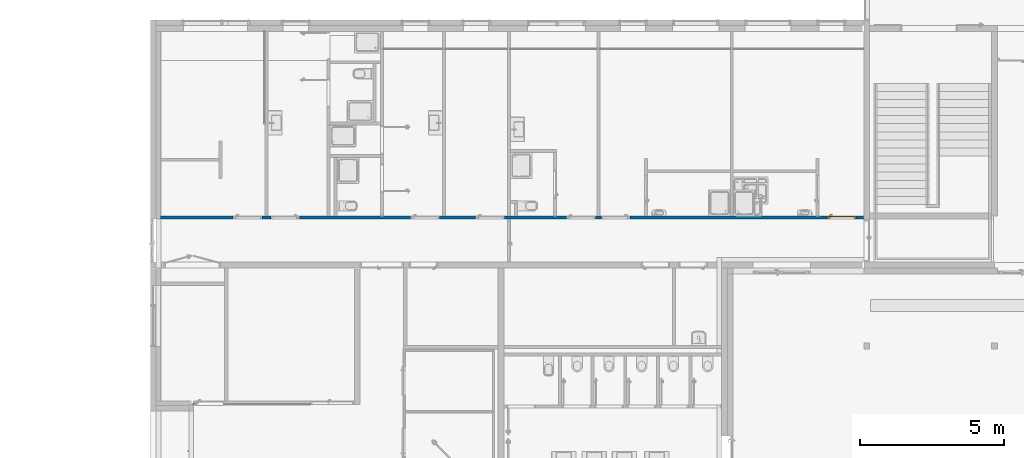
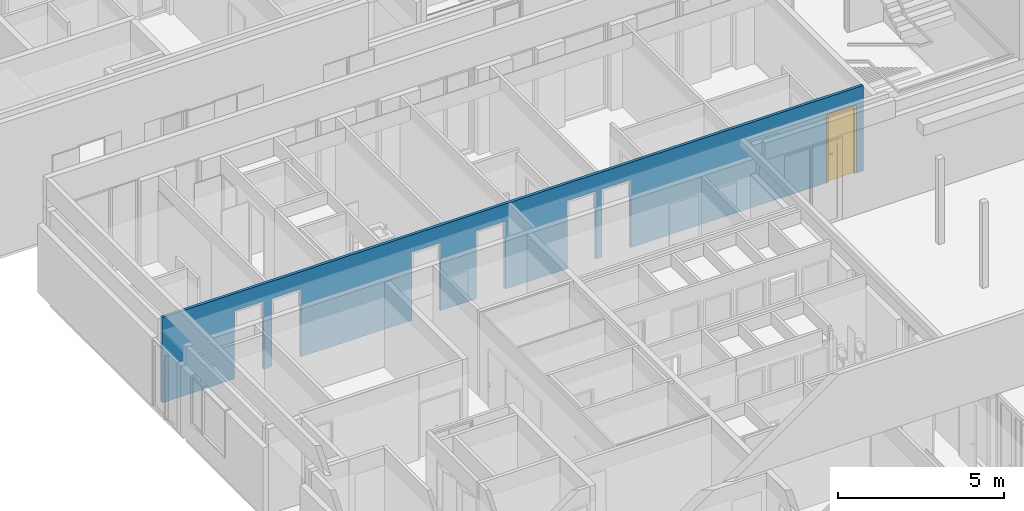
# One storey, part 104 of 240: 1 door, 1 wall, 7 openings.
"""IFC2X3 building model written with IfcOpenShell, lengths in centimetres."""

import ifcopenshell
import ifcopenshell.guid

model = None  # the IFC model being written
_history = None  # IfcOwnerHistory: only IFC2X3 demands one
_inside = {}  # id of a spatial element -> (the spatial element, [elements in it])
_under = {}  # id of a project, library or spatial element -> (it, [spatial elements below it])
_declared = {}  # id of a project -> (the project, [libraries it declares])
_typed = {}  # id of a type object -> (the type object, [elements of that type])
_made_of = {}  # id of a material, layer set ... -> (it, [elements and type objects made of it])


def new_model(schema):
    """Start an empty IFC model of exactly this schema.

    Asked for "IFC4X3", IfcOpenShell would pick the latest addendum, in which some entities
    have other attributes; the version numbers below select the first issue.
    IFC2X3 requires an IfcOwnerHistory on every rooted entity: one is made here for all.
    """
    global model, _history
    if schema == "IFC4X3":
        model = ifcopenshell.file(schema_version=(4, 3, 0, 0))
    else:
        model = ifcopenshell.file(schema=schema)
    _inside.clear()
    _under.clear()
    _declared.clear()
    _typed.clear()
    _made_of.clear()
    _history = None
    if model.schema == "IFC2X3":
        org = make("IfcOrganization", Name="unknown")
        user = make(
            "IfcPersonAndOrganization",
            ThePerson=make("IfcPerson", FamilyName="unknown"),
            TheOrganization=org,
        )
        app = make(
            "IfcApplication",
            ApplicationDeveloper=org,
            Version="unknown",
            ApplicationFullName="unknown",
            ApplicationIdentifier="unknown",
        )
        _history = make(
            "IfcOwnerHistory",
            OwningUser=user,
            OwningApplication=app,
            ChangeAction="ADDED",
            CreationDate=0,
        )
    return model


def make(cls, **values):
    """One entity of the class cls with the attributes given. An attribute that is None is left unset."""
    return model.create_entity(
        cls, **{name: value for name, value in values.items() if value is not None}
    )


def entity(cls, *values):
    """Any entity or typed value of the class cls, its attributes in the order of the schema. None: left unset."""
    e = model.create_entity(cls)
    for i, value in enumerate(values):
        if value is not None:
            e[i] = value
    return e


def rooted(cls, **values):
    """An entity with a GlobalId (a new one), such as an element, a storey or a relation."""
    return make(cls, GlobalId=ifcopenshell.guid.new(), OwnerHistory=_history, **values)


def si_unit(unit_type, name, prefix=None):
    """IfcSIUnit, for example si_unit("LENGTHUNIT", "METRE", prefix="MILLI")."""
    return make("IfcSIUnit", UnitType=unit_type, Prefix=prefix, Name=name)


def converted_unit(unit_type, name, factor, base, dimensions=None, offset=None):
    """IfcConversionBasedUnit, such as the inch: factor (a typed value) times the base unit."""
    return make(
        "IfcConversionBasedUnit"
        if offset is None
        else "IfcConversionBasedUnitWithOffset",
        ConversionOffset=offset,
        Dimensions=None
        if dimensions is None
        else entity("IfcDimensionalExponents", *dimensions),
        UnitType=unit_type,
        Name=name,
        ConversionFactor=make(
            "IfcMeasureWithUnit", ValueComponent=factor, UnitComponent=base
        ),
    )


def derived_unit(unit_type, elements):
    """IfcDerivedUnit: a product of units, each with its exponent."""
    return make(
        "IfcDerivedUnit",
        Elements=[
            make("IfcDerivedUnitElement", Unit=unit, Exponent=power)
            for unit, power in elements
        ],
        UnitType=unit_type,
    )


def assignment(units):
    """IfcUnitAssignment: the units of a project."""
    return None if units is None else make("IfcUnitAssignment", Units=units)


def point(xyz):
    """IfcCartesianPoint."""
    return None if xyz is None else make("IfcCartesianPoint", Coordinates=xyz)


def direction(xyz):
    """IfcDirection."""
    return None if xyz is None else make("IfcDirection", DirectionRatios=xyz)


def frame(location, z_axis=None, x_axis=None):
    """IfcAxis2Placement3D, a coordinate frame: its origin and axes. An axis left out is left unset."""
    return make(
        "IfcAxis2Placement3D",
        Location=point(location),
        Axis=direction(z_axis),
        RefDirection=direction(x_axis),
    )


def frame_2d(location, x_axis=None):
    """IfcAxis2Placement2D, a coordinate frame in the plane: its origin and x axis."""
    return make(
        "IfcAxis2Placement2D", Location=point(location), RefDirection=direction(x_axis)
    )


def origin():
    """The frame at (0, 0, 0) with its axes left unset."""
    return frame((0.0, 0.0, 0.0))


def place(relative_to, where):
    """IfcLocalPlacement: puts the frame where relative to a parent placement (None: the world)."""
    return make(
        "IfcLocalPlacement", PlacementRelTo=relative_to, RelativePlacement=where
    )


def context(
    kind, dimensions, precision=None, world=None, true_north=None, identifier=None
):
    """IfcGeometricRepresentationContext, for example the 3D "Model" context."""
    return make(
        "IfcGeometricRepresentationContext",
        ContextIdentifier=identifier,
        ContextType=kind,
        CoordinateSpaceDimension=dimensions,
        Precision=precision,
        WorldCoordinateSystem=world,
        TrueNorth=true_north,
    )


def subcontext(parent, identifier, kind, view, scale=None):
    """IfcGeometricRepresentationSubContext, for example "Body" below "Model"."""
    return make(
        "IfcGeometricRepresentationSubContext",
        ContextIdentifier=identifier,
        ContextType=kind,
        ParentContext=parent,
        TargetScale=scale,
        TargetView=view,
    )


def project(units=None, contexts=None):
    """IfcProject with its units and contexts."""
    return rooted(
        "IfcProject",
        Name="project",
        RepresentationContexts=contexts,
        UnitsInContext=assignment(units),
    )


def spatial(cls, under=None, at=None, **own):
    """A site, building, storey or space (cls), placed at a placement, below another one or the project."""
    s = rooted(cls, ObjectPlacement=at, **own)
    if under is not None:
        _under.setdefault(under.id(), (under, []))[1].append(s)
    return s


def profile(cls, at=None, kind="AREA", **sizes):
    """A parametric profile (cls). Its sizes go by their IFC names, for example OverallWidth=200.0."""
    return make(cls, ProfileType=kind, Position=at, **sizes)


def rectangle(**sizes):
    """IfcRectangleProfileDef."""
    return profile("IfcRectangleProfileDef", **sizes)


def extrude(swept, where, along, depth):
    """IfcExtrudedAreaSolid: the profile swept, set in the frame where, extruded along a direction by depth."""
    return make(
        "IfcExtrudedAreaSolid",
        SweptArea=swept,
        Position=where,
        ExtrudedDirection=direction(along),
        Depth=depth,
    )


def faces_of(points, faces, orient=None, outer=None):
    """IfcFace entities. A face is a list of loops; a loop is a list of indices into points, from 0.

    orient and outer hold one flag for each loop. By default every Orientation is true, the
    first loop of a face is its IfcFaceOuterBound and the others are IfcFaceBound.
    """
    made = []
    for i, loops in enumerate(faces):
        bounds = []
        for j, loop in enumerate(loops):
            is_outer = j == 0 if outer is None else outer[i][j]
            bounds.append(
                make(
                    "IfcFaceOuterBound" if is_outer else "IfcFaceBound",
                    Bound=make("IfcPolyLoop", Polygon=[points[k] for k in loop]),
                    Orientation=True if orient is None else orient[i][j],
                )
            )
        made.append(make("IfcFace", Bounds=bounds))
    return made


def faceted_brep(points, faces, orient=None, outer=None, voids=None):
    """IfcFacetedBrep: a solid bounded by flat faces; with voids (closed shells), ...WithVoids."""
    shared = [point(p) for p in points]
    hull = make("IfcClosedShell", CfsFaces=faces_of(shared, faces, orient, outer))
    if voids is None:
        return make("IfcFacetedBrep", Outer=hull)
    return make(
        "IfcFacetedBrepWithVoids",
        Outer=hull,
        Voids=[
            make(cls, CfsFaces=faces_of(shared, fs, o, b)) for cls, fs, o, b in voids
        ],
    )


def shape(context_of_items, identifier, shape_type, items):
    """IfcShapeRepresentation: the items that make up one representation, for example the "Body"."""
    return make(
        "IfcShapeRepresentation",
        ContextOfItems=context_of_items,
        RepresentationIdentifier=identifier,
        RepresentationType=shape_type,
        Items=items,
    )


def source(mapping_origin, context_of_items, identifier, shape_type, items):
    """IfcRepresentationMap: a shape defined once, which mapped items show again and again."""
    return make(
        "IfcRepresentationMap",
        MappingOrigin=mapping_origin,
        MappedRepresentation=shape(context_of_items, identifier, shape_type, items),
    )


def transform(
    local_origin,
    x_axis=None,
    y_axis=None,
    z_axis=None,
    scale=None,
    scale2=None,
    scale3=None,
    uniform=True,
):
    """IfcCartesianTransformationOperator3D, or its non-uniform kind. x_axis, y_axis, z_axis: its Axis1, 2, 3."""
    if uniform:
        return make(
            "IfcCartesianTransformationOperator3D",
            Axis1=direction(x_axis),
            Axis2=direction(y_axis),
            LocalOrigin=point(local_origin),
            Scale=scale,
            Axis3=direction(z_axis),
        )
    return make(
        "IfcCartesianTransformationOperator3DnonUniform",
        Axis1=direction(x_axis),
        Axis2=direction(y_axis),
        LocalOrigin=point(local_origin),
        Scale=scale,
        Axis3=direction(z_axis),
        Scale2=scale2,
        Scale3=scale3,
    )


def mapped(mapping_source, mapping_target):
    """IfcMappedItem: shows the shape of a source again, moved by a transform."""
    return make(
        "IfcMappedItem", MappingSource=mapping_source, MappingTarget=mapping_target
    )


def material(Name=None, Category=None):
    """IfcMaterial."""
    return make("IfcMaterial", Name=Name, Category=Category)


def material_list(materials):
    """IfcMaterialList."""
    return make("IfcMaterialList", Materials=materials)


def layer(
    of_material, thickness, ventilated=None, Name=None, Category=None, Priority=None
):
    """IfcMaterialLayer: one layer of a wall or slab, of a material (None: an air gap)."""
    return make(
        "IfcMaterialLayer",
        Material=of_material,
        LayerThickness=thickness,
        IsVentilated=ventilated,
        Name=Name,
        Category=Category,
        Priority=Priority,
    )


def layer_set(layers, Name=None):
    """IfcMaterialLayerSet."""
    return make("IfcMaterialLayerSet", MaterialLayers=layers, LayerSetName=Name)


def layer_usage(for_layer_set, set_direction, sense, offset, extent=None):
    """IfcMaterialLayerSetUsage: how a layer set lies in its element."""
    return make(
        "IfcMaterialLayerSetUsage",
        ForLayerSet=for_layer_set,
        LayerSetDirection=set_direction,
        DirectionSense=sense,
        OffsetFromReferenceLine=offset,
        ReferenceExtent=extent,
    )


def made_of(thing, what):
    """Note that an element or type object is made of a material, layer set ...; save() writes the relation."""
    if what is not None:
        _made_of.setdefault(what.id(), (what, []))[1].append(thing)
    return thing


def type_object(cls, material=None, **own):
    """A type object (cls), such as IfcWallType, which elements share."""
    return made_of(rooted(cls, **own), material)


def type_shapes(of_type, sources):
    """Give a type object the sources (RepresentationMaps) that its elements show as mapped items."""
    of_type.RepresentationMaps = sources


def element(
    cls,
    number,
    at=None,
    inside=None,
    cuts=None,
    type_object=None,
    material=None,
    context=None,
    identifier="Body",
    shape_type=None,
    held_by="IfcProductDefinitionShape",
    body=None,
    shapes=None,
    **own,
):
    """One element of the class cls, such as IfcWall. Its Tag is "e" and its number.

    at: its placement. inside: the storey or other place that contains it. cuts: it is an
    opening in that element (IfcRelVoidsElement). A single representation is given by context,
    identifier, shape_type and body (its items); several are given by shapes. held_by: the class
    of the entity that holds the representations. save() writes the other relations.
    """
    e = rooted(cls, Tag="e%d" % number, ObjectPlacement=at, **own)
    if body is not None:
        shapes = [shape(context, identifier, shape_type, body)]
    if shapes is not None:
        e.Representation = make(held_by, Representations=shapes)
    if inside is not None:
        _inside.setdefault(inside.id(), (inside, []))[1].append(e)
    if cuts is not None:
        rooted(
            "IfcRelVoidsElement", RelatingBuildingElement=cuts, RelatedOpeningElement=e
        )
    if type_object is not None:
        _typed.setdefault(type_object.id(), (type_object, []))[1].append(e)
    return made_of(e, material)


def fill(opening, filler):
    """IfcRelFillsElement: the door or window that sits in an opening."""
    return rooted(
        "IfcRelFillsElement",
        RelatingOpeningElement=opening,
        RelatedBuildingElement=filler,
    )


def aggregate(whole, parts):
    """IfcRelAggregates: a whole, such as a stair, and the parts it consists of."""
    return rooted("IfcRelAggregates", RelatingObject=whole, RelatedObjects=parts)


def save(model, path):
    """Write the relations noted so far, then the file.

    IfcRelAggregates (storeys below a building ...), IfcRelContainedInSpatialStructure (elements
    in a storey), IfcRelDefinesByType, IfcRelAssociatesMaterial and IfcRelDeclares: one each for
    every whole, place, type object, material and project.
    """
    for whole, parts in _under.values():
        aggregate(whole, parts)
    for where, things in _inside.values():
        rooted(
            "IfcRelContainedInSpatialStructure",
            RelatedElements=things,
            RelatingStructure=where,
        )
    for kind, things in _typed.values():
        rooted("IfcRelDefinesByType", RelatedObjects=things, RelatingType=kind)
    for what, things in _made_of.values():
        rooted("IfcRelAssociatesMaterial", RelatedObjects=things, RelatingMaterial=what)
    for by, libraries in _declared.values():
        rooted("IfcRelDeclares", RelatingContext=by, RelatedDefinitions=libraries)
    model.write(path)


model = new_model("IFC2X3")

# Units and contexts
model_context = context("Model", 3, precision=0.001, world=origin(), true_north=direction((6.12303176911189e-17, 1.0)))
body_context = subcontext(model_context, "Body", "Model", "MODEL_VIEW")
ifc_project = project(units=[si_unit("LENGTHUNIT", "METRE", prefix="CENTI"), si_unit("AREAUNIT", "SQUARE_METRE"), si_unit("VOLUMEUNIT", "CUBIC_METRE"), converted_unit("PLANEANGLEUNIT", "DEGREE", entity("IfcRatioMeasure", 0.0174532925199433), si_unit("PLANEANGLEUNIT", "RADIAN"), dimensions=[0, 0, 0, 0, 0, 0, 0]), si_unit("MASSUNIT", "GRAM", prefix="KILO"), derived_unit("MASSDENSITYUNIT", [(si_unit("MASSUNIT", "GRAM", prefix="KILO"), 1), (si_unit("LENGTHUNIT", "METRE"), -3)]), si_unit("TIMEUNIT", "SECOND"), si_unit("FREQUENCYUNIT", "HERTZ"), si_unit("THERMODYNAMICTEMPERATUREUNIT", "DEGREE_CELSIUS"), derived_unit("THERMALTRANSMITTANCEUNIT", [(si_unit("MASSUNIT", "GRAM", prefix="KILO"), 1), (si_unit("THERMODYNAMICTEMPERATUREUNIT", "KELVIN"), -1), (si_unit("TIMEUNIT", "SECOND"), -3)]), derived_unit("VOLUMETRICFLOWRATEUNIT", [(si_unit("LENGTHUNIT", "METRE"), 3), (si_unit("TIMEUNIT", "SECOND"), -1)]), si_unit("ELECTRICCURRENTUNIT", "AMPERE"), si_unit("ELECTRICVOLTAGEUNIT", "VOLT"), si_unit("POWERUNIT", "WATT"), si_unit("FORCEUNIT", "NEWTON", prefix="KILO"), si_unit("ILLUMINANCEUNIT", "LUX"), si_unit("LUMINOUSFLUXUNIT", "LUMEN"), si_unit("LUMINOUSINTENSITYUNIT", "CANDELA"), derived_unit("USERDEFINED", [(si_unit("MASSUNIT", "GRAM", prefix="KILO"), -1), (si_unit("LENGTHUNIT", "METRE"), -2), (si_unit("TIMEUNIT", "SECOND"), 3), (si_unit("LUMINOUSFLUXUNIT", "LUMEN"), 1)]), derived_unit("LINEARVELOCITYUNIT", [(si_unit("LENGTHUNIT", "METRE"), 1), (si_unit("TIMEUNIT", "SECOND"), -1)]), si_unit("PRESSUREUNIT", "PASCAL"), derived_unit("USERDEFINED", [(si_unit("LENGTHUNIT", "METRE"), -2), (si_unit("MASSUNIT", "GRAM", prefix="KILO"), 1), (si_unit("TIMEUNIT", "SECOND"), -2)])], contexts=[model_context])

# Site, building, storey
site_placement = place(None, frame((-2781.94577612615, 7442.24238424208, 0.0)))
site = spatial("IfcSite", under=ifc_project, at=site_placement, Name="Default", CompositionType="ELEMENT")
building_placement = place(site_placement, origin())
building = spatial("IfcBuilding", under=site, at=building_placement, CompositionType="ELEMENT")
storey_placement = place(building_placement, origin())
storey = spatial("IfcBuildingStorey", under=building, at=storey_placement, Name="N00 - COO", CompositionType="ELEMENT", Elevation=0.0)

# Wall, openings, door
ifc_material_1 = material(Name="01 - Enduit/Plâtre")
ifc_layer_1 = layer(ifc_material_1, 1.3)
ifc_material_2 = material(Name="00 - Isolant")
ifc_layer_2 = layer(ifc_material_2, 7.4)
ifc_layer_3 = layer(ifc_material_1, 1.3)
ifc_layer_set = layer_set([ifc_layer_1, ifc_layer_2, ifc_layer_3], Name="Mur de base:06 - cloisons - Ba13 10cm")
ifc_layer_usage = layer_usage(ifc_layer_set, "AXIS2", "NEGATIVE", 5.0)
wall_type = type_object("IfcWallType", Name="Mur de base:06 - cloisons - Ba13 10cm", PredefinedType="STANDARD", material=ifc_layer_set)
wall_placement = place(building_placement, frame((-10866.3130476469, -1755.0, 0.0)))
wall = element("IfcWallStandardCase", 1, at=wall_placement, inside=storey, type_object=wall_type, material=ifc_layer_usage, Name="Mur de base:06 - cloisons - Ba13 10cm", ObjectType="Mur de base:06 - cloisons - Ba13 10cm", context=body_context, shape_type="SweptSolid", body=[
    extrude(rectangle(XDim=2435.48317594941, YDim=9.99999999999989, at=frame_2d((1217.7415879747, 3.37507799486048e-14), x_axis=(-1.0, 0.0))), origin(), (0.0, 0.0, 1.0), 313.0),
])
opening_1_placement = place(wall_placement, frame((2309.31316997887, -5.0, 0.0)))
opening_1 = element("IfcOpeningElement", 2, at=opening_1_placement, cuts=wall, Name="Int. Simple:PP simple (0.93m x 2.50m):1", ObjectType="Opening", context=body_context, shape_type="SweptSolid", body=[
    extrude(rectangle(XDim=248.500000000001, YDim=99.9999999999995, at=frame_2d((124.250000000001, 49.9999999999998), x_axis=(1.0, 0.0))), frame((0.0, 0.0, 0.0), z_axis=(0.0, 1.0, 0.0), x_axis=(0.0, 0.0, 1.0)), (0.0, 0.0, 1.0), 10.0),
])
opening_2_placement = place(wall_placement, frame((1527.31316997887, -5.0, 0.0)))
element("IfcOpeningElement", 3, at=opening_2_placement, cuts=wall, Name="Int. Simple:PP simple (0.93m x 2.50m):1", ObjectType="Opening", context=body_context, shape_type="SweptSolid", body=[
    extrude(rectangle(XDim=248.500000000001, YDim=99.9999999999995, at=frame_2d((124.250000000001, 50.0), x_axis=(1.0, 0.0))), frame((0.0, 0.0, 0.0), z_axis=(0.0, 1.0, 0.0), x_axis=(0.0, 0.0, 1.0)), (0.0, 0.0, 1.0), 10.0),
])
opening_3_placement = place(wall_placement, frame((1406.81316997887, -5.0, 0.0)))
element("IfcOpeningElement", 4, at=opening_3_placement, cuts=wall, Name="Int. Simple:PP simple (0.93m x 2.50m):1", ObjectType="Opening", context=body_context, shape_type="SweptSolid", body=[
    extrude(rectangle(XDim=248.500000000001, YDim=99.9999999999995, at=frame_2d((124.250000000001, 49.9999999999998), x_axis=(1.0, 0.0))), frame((0.0, 0.0, 0.0), z_axis=(0.0, 1.0, 0.0), x_axis=(0.0, 0.0, 1.0)), (0.0, 0.0, 1.0), 10.0),
])
opening_4_placement = place(wall_placement, frame((1091.81316997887, -5.0, 0.0)))
element("IfcOpeningElement", 5, at=opening_4_placement, cuts=wall, Name="Int. Simple:PP simple (0.93m x 2.50m):1", ObjectType="Opening", context=body_context, shape_type="SweptSolid", body=[
    extrude(rectangle(XDim=248.500000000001, YDim=99.9999999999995, at=frame_2d((124.250000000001, 49.9999999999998), x_axis=(1.0, 0.0))), frame((0.0, 0.0, 0.0), z_axis=(0.0, 1.0, 0.0), x_axis=(0.0, 0.0, 1.0)), (0.0, 0.0, 1.0), 10.0),
])
opening_5_placement = place(wall_placement, frame((866.813169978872, -5.0, 0.0)))
element("IfcOpeningElement", 6, at=opening_5_placement, cuts=wall, Name="Int. Simple:PP simple (0.93m x 2.50m):1", ObjectType="Opening", context=body_context, shape_type="SweptSolid", body=[
    extrude(rectangle(XDim=248.500000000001, YDim=99.9999999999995, at=frame_2d((124.250000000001, 49.9999999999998), x_axis=(1.0, 0.0))), frame((0.0, 0.0, 0.0), z_axis=(0.0, 1.0, 0.0), x_axis=(0.0, 0.0, 1.0)), (0.0, 0.0, 1.0), 10.0),
])
opening_6_placement = place(wall_placement, frame((381.813169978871, -5.0, 0.0)))
element("IfcOpeningElement", 7, at=opening_6_placement, cuts=wall, Name="Int. Simple:PP simple (0.93m x 2.50m):1", ObjectType="Opening", context=body_context, shape_type="SweptSolid", body=[
    extrude(rectangle(XDim=248.500000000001, YDim=99.9999999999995, at=frame_2d((124.250000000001, 50.0), x_axis=(1.0, 0.0))), frame((0.0, 0.0, 0.0), z_axis=(0.0, 1.0, 0.0), x_axis=(0.0, 0.0, 1.0)), (0.0, 0.0, 1.0), 10.0),
])
opening_7_placement = place(wall_placement, frame((251.813169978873, -5.0, 0.0)))
element("IfcOpeningElement", 8, at=opening_7_placement, cuts=wall, Name="Int. Simple:PP simple (0.93m x 2.50m):1", ObjectType="Opening", context=body_context, shape_type="SweptSolid", body=[
    extrude(rectangle(XDim=248.500000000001, YDim=99.9999999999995, at=frame_2d((124.250000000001, 49.9999999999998), x_axis=(1.0, 0.0))), frame((0.0, 0.0, 0.0), z_axis=(0.0, 1.0, 0.0), x_axis=(0.0, 0.0, 1.0)), (0.0, 0.0, 1.0), 10.0),
])
ifc_material_3 = material(Name="Finition Peinture - Blanc satiné")
ifc_material_4 = material(Name="Bois - Panneau de porte")
ifc_material_5 = material(Name="Bois - Cadre de porte")
ifc_material_list_1 = material_list([ifc_material_3, ifc_material_4, ifc_material_5])
ifc_material_list_2 = material_list([ifc_material_3, ifc_material_4, ifc_material_5])
door_style = type_object("IfcDoorStyle", Name="PP simple (0.93m x 2.50m)", ConstructionType="NOTDEFINED", OperationType="SINGLE_SWING_RIGHT", ParameterTakesPrecedence=False, Sizeable=False, material=ifc_material_list_2)
shared_shape = source(origin(), body_context, "Body", "Brep", [
    faceted_brep([(99.5000000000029, -0.500000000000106, 87.0), (99.5000000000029, -0.500000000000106, 108.0), (98.535276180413, -0.500000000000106, 108.399601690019), (97.5000000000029, -0.500000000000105, 108.535898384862), (96.4647238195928, -0.500000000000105, 108.399601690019), (95.500000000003, -0.500000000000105, 108.0), (95.5000000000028, -0.500000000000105, 87.0), (96.4647238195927, -0.500000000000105, 86.6003983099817), (97.5000000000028, -0.500000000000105, 86.464101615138), (98.5352761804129, -0.500000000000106, 86.6003983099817), (99.5000000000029, 0.0, 108.0), (99.5000000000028, 0.0, 87.0), (98.5352761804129, 0.0, 86.6003983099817), (97.5000000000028, 0.0, 86.464101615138), (96.4647238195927, 0.0, 86.6003983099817), (95.5000000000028, 0.0, 87.0), (95.5000000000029, 0.0, 108.0), (96.4647238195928, 0.0, 108.399601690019), (97.5000000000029, 0.0, 108.535898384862), (98.535276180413, 0.0, 108.399601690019)], [[[0, 1, 2, 3, 4, 5, 6, 7, 8, 9]], [[10, 11, 12, 13, 14, 15, 16, 17, 18, 19]], [[9, 12, 11, 0]], [[8, 13, 12, 9]], [[7, 14, 13, 8]], [[7, 6, 15, 14]], [[15, 6, 5, 16]], [[4, 17, 16, 5]], [[3, 18, 17, 4]], [[2, 19, 18, 3]], [[2, 1, 10, 19]], [[11, 10, 1, 0]]]),
    faceted_brep([(99.5000000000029, 4.0, 87.0), (99.5000000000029, 4.0, 108.0), (98.535276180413, 4.0, 108.399601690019), (97.5000000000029, 4.0, 108.535898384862), (96.4647238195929, 4.0, 108.399601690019), (95.500000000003, 4.0, 108.0), (95.5000000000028, 4.0, 87.0), (96.4647238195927, 4.0, 86.6003983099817), (97.5000000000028, 4.0, 86.464101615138), (98.5352761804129, 4.0, 86.6003983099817), (97.5000000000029, 4.49999999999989, 108.535898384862), (98.535276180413, 4.49999999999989, 108.399601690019), (99.5000000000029, 4.49999999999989, 108.0), (99.5000000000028, 4.49999999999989, 87.0), (98.5352761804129, 4.49999999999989, 86.6003983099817), (97.5000000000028, 4.49999999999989, 86.464101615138), (96.4647238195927, 4.49999999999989, 86.6003983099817), (95.5000000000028, 4.49999999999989, 87.0), (95.500000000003, 4.49999999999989, 108.0), (96.4647238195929, 4.49999999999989, 108.399601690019)], [[[0, 1, 2, 3, 4, 5, 6, 7, 8, 9]], [[10, 11, 12, 13, 14, 15, 16, 17, 18, 19]], [[4, 19, 18, 5]], [[3, 10, 19, 4]], [[2, 11, 10, 3]], [[2, 1, 12, 11]], [[13, 12, 1, 0]], [[9, 14, 13, 0]], [[8, 15, 14, 9]], [[7, 16, 15, 8]], [[7, 6, 17, 16]], [[17, 6, 5, 18]]]),
    faceted_brep([(97.2974701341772, -0.50000000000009, 100.778044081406), (97.7025298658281, -0.500000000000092, 100.778044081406), (98.1000000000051, -0.500000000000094, 100.699999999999), (98.100000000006, -0.500000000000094, 99.2999999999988), (97.7025298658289, -0.500000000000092, 99.221955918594), (97.297470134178, -0.50000000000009, 99.2219559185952), (96.9000000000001, -0.500000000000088, 99.3000000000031), (96.9000000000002, -0.500000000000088, 100.7), (97.7025298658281, -3.10045754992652, 100.778044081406), (98.1000000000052, -3.26509507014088, 100.7), (97.2974701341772, -2.93267631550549, 100.778044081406), (95.9298602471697, -4.30028620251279, 100.778044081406), (96.0976414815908, -4.70534593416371, 100.778044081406), (96.9000000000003, -2.76803879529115, 100.7), (96.9000000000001, -2.76803879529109, 99.3000000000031), (97.297470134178, -2.93267631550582, 99.2219559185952), (97.7025298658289, -3.10045754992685, 99.221955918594), (96.0976414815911, -4.70534593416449, 99.221955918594), (95.9298602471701, -4.30028620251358, 99.2219559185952), (98.100000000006, -3.26509507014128, 99.2999999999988), (96.2622790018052, -5.10281606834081, 100.7), (95.7652227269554, -3.90281606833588, 100.7), (95.7652227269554, -3.90281606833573, 99.3000000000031), (96.2622790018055, -5.10281606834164, 99.2999999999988), (87.4981359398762, -5.10281606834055, 100.7), (87.4981359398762, -4.70534593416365, 100.778044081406), (87.4981359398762, -4.30028620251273, 100.778044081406), (87.4981359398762, -3.90281606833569, 100.699999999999), (87.4981359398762, -3.90281606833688, 99.3000000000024), (87.4981359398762, -4.30028620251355, 99.2219559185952), (87.4981359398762, -4.70534593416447, 99.221955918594), (87.4981359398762, -5.10281606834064, 99.2999999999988), (91.7139980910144, -4.5028160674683, 100.78786867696), (92.2692302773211, -5.1028160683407, 100.7), (91.6316793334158, -3.9028160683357, 100.7), (91.631679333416, -3.9028160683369, 99.3000000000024), (91.7139981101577, -4.50281607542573, 99.2121313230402), (92.2692310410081, -5.10281606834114, 99.2999999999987)], [[[0, 1, 2, 3, 4, 5, 6, 7]], [[2, 1, 8, 9]], [[1, 0, 10, 11, 12, 8]], [[0, 7, 13, 10]], [[14, 13, 7, 6]], [[5, 15, 14, 6]], [[5, 4, 16, 17, 18, 15]], [[3, 19, 16, 4]], [[9, 19, 3, 2]], [[9, 8, 12, 20]], [[10, 13, 21, 11]], [[22, 21, 13, 14]], [[14, 15, 18, 22]], [[16, 19, 23, 17]], [[20, 23, 19, 9]], [[24, 25, 26, 27, 28, 29, 30, 31]], [[32, 25, 33]], [[33, 25, 24]], [[33, 20, 12]], [[11, 34, 32]], [[34, 11, 21]], [[27, 26, 34]], [[32, 26, 25]], [[32, 34, 26]], [[32, 33, 12]], [[11, 32, 12]], [[21, 22, 35, 28, 27, 34]], [[36, 29, 35]], [[30, 36, 37]], [[18, 35, 22]], [[29, 28, 35]], [[30, 37, 31]], [[37, 17, 23]], [[36, 17, 37]], [[36, 18, 17]], [[36, 35, 18]], [[29, 36, 30]], [[23, 20, 33, 24, 31, 37]]]),
    faceted_brep([(97.2974701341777, 4.49999999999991, 99.2219559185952), (97.7025298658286, 4.49999999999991, 99.221955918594), (98.1000000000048, 4.4999999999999, 99.2999999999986), (98.1000000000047, 4.4999999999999, 100.7), (97.7025298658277, 4.49999999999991, 100.778044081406), (97.2974701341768, 4.49999999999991, 100.778044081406), (96.8999999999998, 4.49999999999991, 100.7), (96.900000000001, 4.49999999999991, 99.3000000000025), (96.8999999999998, 6.7485204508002, 100.7), (96.8999999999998, 6.74852045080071, 99.3000000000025), (97.2974701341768, 6.91315797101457, 100.778044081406), (97.7025298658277, 7.0809392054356, 100.778044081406), (96.0838906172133, 8.69957845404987, 100.778044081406), (95.9161093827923, 8.29451872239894, 100.778044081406), (98.1000000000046, 7.24557672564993, 100.7), (98.1000000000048, 7.24557672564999, 99.2999999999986), (97.7025298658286, 7.08093920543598, 99.221955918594), (97.2974701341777, 6.91315797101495, 99.2219559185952), (95.9161093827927, 8.29451872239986, 99.2219559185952), (96.0838906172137, 8.69957845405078, 99.221955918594), (95.751471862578, 7.89704858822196, 100.7), (95.7514718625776, 7.89704858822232, 99.3000000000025), (96.2485281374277, 9.09704858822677, 100.7), (96.2485281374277, 9.09704858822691, 99.2999999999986), (87.4954216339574, 8.29451872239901, 100.778044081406), (87.4954216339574, 8.69957845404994, 100.778044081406), (87.4954216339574, 9.09704858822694, 100.7), (87.4954216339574, 9.09704858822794, 99.2999999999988), (87.4954216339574, 8.6995784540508, 99.221955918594), (87.4954216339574, 8.29451872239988, 99.2219559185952), (87.4954216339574, 7.89704858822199, 99.3000000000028), (87.4954216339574, 7.89704858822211, 100.7), (91.6234467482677, 7.89704858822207, 100.7), (91.6234479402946, 7.89704858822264, 99.3000000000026), (91.7057655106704, 8.49704858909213, 100.78786867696), (92.255479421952, 9.09704858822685, 100.7), (92.2554795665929, 9.09704858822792, 99.2999999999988), (91.7057654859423, 8.49704858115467, 99.2121313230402)], [[[0, 1, 2, 3, 4, 5, 6, 7]], [[8, 9, 7, 6]], [[5, 10, 8, 6]], [[5, 4, 11, 12, 13, 10]], [[3, 14, 11, 4]], [[14, 3, 2, 15]], [[2, 1, 16, 15]], [[1, 0, 17, 18, 19, 16]], [[0, 7, 9, 17]], [[20, 21, 9, 8]], [[8, 10, 13, 20]], [[14, 22, 12, 11]], [[23, 22, 14, 15]], [[15, 16, 19, 23]], [[17, 9, 21, 18]], [[24, 25, 26, 27, 28, 29, 30, 31]], [[21, 20, 32, 31, 30, 33]], [[34, 24, 32]], [[25, 34, 35]], [[13, 32, 20]], [[24, 31, 32]], [[25, 35, 26]], [[35, 12, 22]], [[34, 12, 35]], [[34, 13, 12]], [[34, 32, 13]], [[24, 34, 25]], [[22, 23, 36, 27, 26, 35]], [[37, 28, 36]], [[36, 28, 27]], [[36, 23, 19]], [[18, 33, 37]], [[33, 18, 21]], [[30, 29, 33]], [[37, 29, 28]], [[37, 33, 29]], [[37, 36, 19]], [[18, 37, 19]]]),
    faceted_brep([(103.500000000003, 4.0, 245.0), (103.500000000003, 4.0, 0.0), (10.5000000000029, 4.0, 0.0), (10.5000000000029, 4.0, 245.0), (103.500000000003, 0.0, 245.0), (10.5000000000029, 0.0, 245.0), (10.5000000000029, 0.0, 0.0), (103.500000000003, 0.0, 0.0)], [[[0, 1, 2, 3]], [[4, 5, 6, 7]], [[3, 5, 4, 0]], [[2, 6, 5, 3]], [[1, 7, 6, 2]], [[0, 4, 7, 1]]]),
    faceted_brep([(107.0, 10.0, 0.0), (107.0, 0.0, 0.0), (108.500000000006, 0.0, 0.0), (108.500000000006, -0.500000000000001, 0.0), (103.500000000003, -0.500000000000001, 0.0), (103.500000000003, 4.0, 0.0), (102.0, 4.0, 0.0), (102.0, 10.5000000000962, 0.0), (108.500000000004, 10.5000000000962, 0.0), (108.500000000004, 10.0, 0.0), (107.0, 10.0, 248.500000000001), (107.0, 0.0, 248.500000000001), (108.500000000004, 10.0, 250.0), (5.50000000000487, 10.0, 250.0), (5.50000000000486, 10.0, 0.0), (7.0, 10.0, 0.0), (7.0, 10.0, 248.500000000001), (102.0, 4.0, 243.5), (102.0, 10.5000000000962, 243.5), (103.500000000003, 4.0, 245.0), (10.5000000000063, 4.0, 245.0), (10.5000000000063, 4.0, 0.0), (12.0, 4.0, 0.0), (12.0, 4.0, 243.5), (7.0, 0.0, 0.0), (7.0, 0.0, 248.500000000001), (5.50000000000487, 10.5000000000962, 0.0), (12.0, 10.5000000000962, 0.0), (10.5000000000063, -0.500000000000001, 0.0), (5.5000000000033, -0.500000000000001, 0.0), (5.5000000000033, 0.0, 0.0), (12.0, 10.5000000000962, 243.5), (103.500000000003, -0.500000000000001, 245.0), (108.500000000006, -0.500000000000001, 250.0), (5.5000000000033, -0.500000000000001, 250.0), (10.5000000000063, -0.500000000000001, 245.0), (108.500000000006, 0.0, 250.0), (5.50000000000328, 0.0, 250.0), (108.500000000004, 10.5000000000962, 250.0), (5.50000000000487, 10.5000000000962, 250.0)], [[[0, 1, 2, 3, 4, 5, 6, 7, 8, 9]], [[0, 10, 11, 1]], [[9, 12, 13, 14, 15, 16, 10, 0]], [[7, 6, 17, 18]], [[5, 19, 20, 21, 22, 23, 17, 6]], [[16, 15, 24, 25]], [[15, 14, 26, 27, 22, 21, 28, 29, 30, 24]], [[23, 22, 27, 31]], [[10, 16, 25, 11]], [[17, 23, 31, 18]], [[5, 4, 32, 19]], [[3, 33, 34, 29, 28, 35, 32, 4]], [[2, 36, 33, 3]], [[1, 11, 25, 24, 30, 37, 36, 2]], [[8, 38, 12, 9]], [[7, 18, 31, 27, 26, 39, 38, 8]], [[35, 28, 21, 20]], [[37, 30, 29, 34]], [[39, 26, 14, 13]], [[32, 35, 20, 19]], [[36, 37, 34, 33]], [[38, 39, 13, 12]]]),
])
type_shapes(door_style, [shared_shape])
door_placement = place(opening_1_placement, frame((107.0, 10.0, 0.0), z_axis=(0.0, 0.0, 1.0), x_axis=(-1.0, 0.0, 0.0)))
door = element("IfcDoor", 9, at=door_placement, inside=storey, type_object=door_style, material=ifc_material_list_1, Name="Int. Simple:PP simple (0.93m x 2.50m)", ObjectType="Int. Simple:PP simple (0.93m x 2.50m)", OverallHeight=248.500000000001, OverallWidth=99.9999999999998, context=body_context, shape_type="MappedRepresentation", body=[
    mapped(shared_shape, transform((0.0, 0.0, 0.0), scale=1.0)),
])
fill(opening_1, door)

save(model, "model.ifc")
